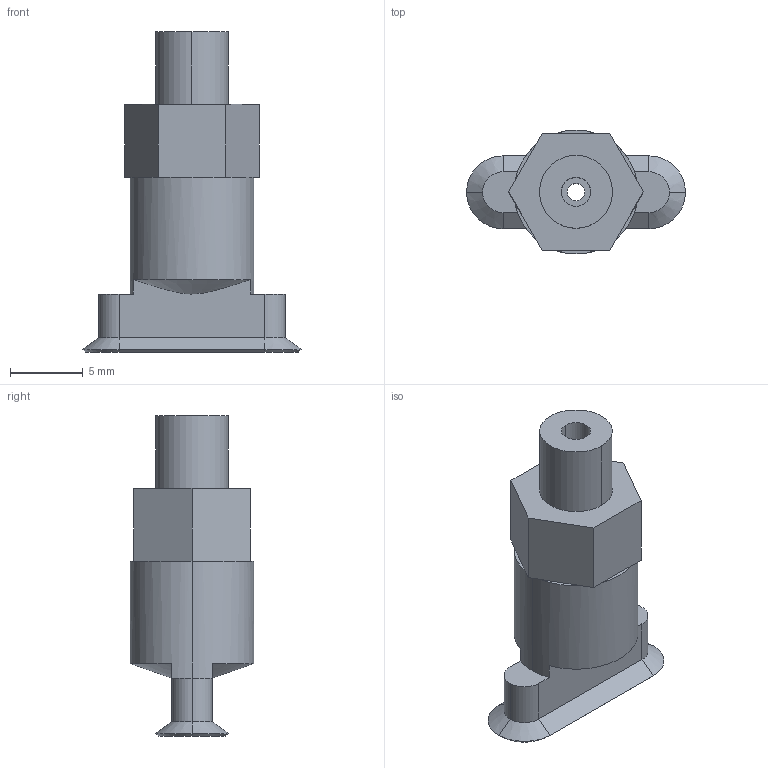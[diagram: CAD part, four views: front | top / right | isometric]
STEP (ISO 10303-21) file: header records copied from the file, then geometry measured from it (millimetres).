
FILE_DESCRIPTION(('STEP AP214'),'1');
FILE_NAME('10_01_05_00407.stp','2021-01-28T16:52:19',('TraceParts'),('TraceParts S.A.'),'Spatial InterOp 3D',' ',' ');
FILE_SCHEMA(('AUTOMOTIVE_DESIGN { 1 0 10303 214 1 1 1 1 }'));
Length unit declared in the file: millimetre
Products named in the file (1): 10_01_05_00407
Bounding box: 15 x 8.5 x 22 mm (x, y, z)
Volume: 877.3 mm3; surface area: 864.1 mm2
Topology: 1 solids, 2 shells, 63 faces, 144 edges, 86 vertices
Faces by surface type: plane 33, cone 16, cylinder 14
Entity records: 2315 total; most frequent: DIRECTION 330, CARTESIAN_POINT 320, ORIENTED_EDGE 288, EDGE_CURVE 144, AXIS2_PLACEMENT_3D 124, VERTEX_POINT 86, LINE 82, VECTOR 82
